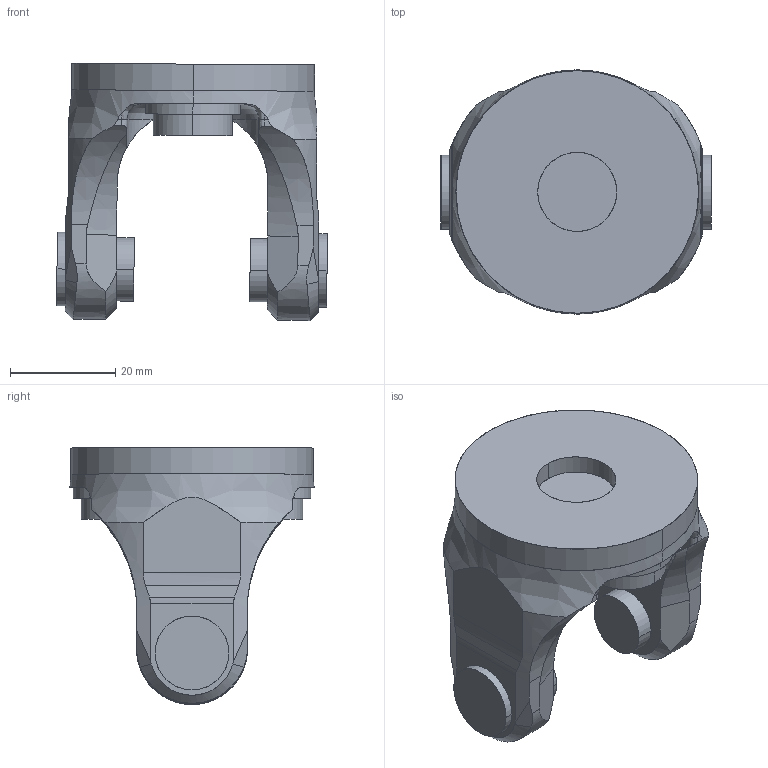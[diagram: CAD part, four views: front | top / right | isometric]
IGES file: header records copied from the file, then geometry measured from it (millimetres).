
Start section: SolidWorks IGES file using analytic representation for surfaces
Global section: file name: C:\Data\SAP_DOC_20200123_IRB390\Lättmodeller_IRB390\Final_4axis\IRB390_15kg_1300_STD_rev0_IGES_J\IRB390_X_1300_STD_4D_LF_00.IGS; native system: SolidWorks 2018; preprocessor: SolidWorks 2018; author: sestdan2; date: 200204.155012; units: millimetre
Bounding box: 51.29 x 46.31 x 48.78 mm (x, y, z)
Surface area: 10201.2 mm2 (no closed solid volume)
Topology: 0 solids, 0 shells, 107 faces, 1747 edges, 1747 vertices
Faces by surface type: revolution 59, bspline 48
